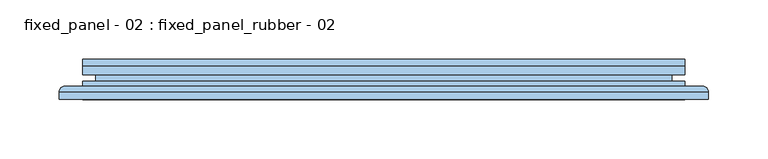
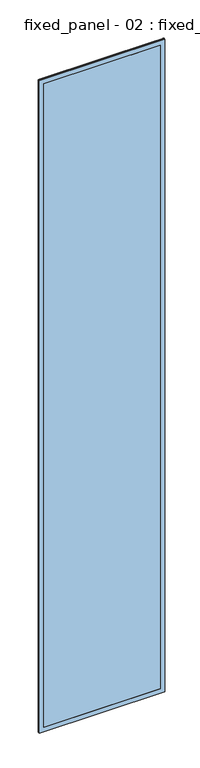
"""IFC4 building model written with IfcOpenShell, lengths in millimetres: window geometry, fixed_panel - 02 : fixed_panel_rubber - 02."""

from ifc_helpers import new_model, si_unit, frame, origin, place, context, project, spatial, polyline, ellipse_curve, outline, extrude, faceted_brep, source, transform, mapped, element, save
from ifc_brep_helpers import plane_surface, cylinder_surface, advanced_brep


def fixed_panel_02_fixed_panel_rubber_02_66d61222(model_context):
    return source(origin(), model_context, "Body", "SolidModel", [
        advanced_brep(
        [(255.001939, -27.9878211, 2960.0), (260.001939, -22.9878211, 2965.0), (260.001939, -22.9878211, -25.0), (255.001939, -27.9878211, -20.0), (269.999617, -22.9878211, -34.9976779), (-269.999617, -22.9878211, -34.9976779), (-269.999617, -22.9878211, 2974.9976779), (269.999617, -22.9878211, 2974.9976779), (-260.001939, -22.9878211, 2965.0), (-260.001939, -22.9878211, -25.0), (-255.001939, -27.9878211, -20.0), (255.001939, -34.0, 2960.0), (255.001939, -34.0, -20.0), (-255.001939, -34.0, -20.0), (274.9952925, -34.0, 2979.9933535), (-274.9952925, -34.0, 2979.9933535), (-274.9952925, -34.0, -39.9933535), (274.9952925, -34.0, -39.9933535), (-255.001939, -34.0, 2960.0), (274.9952925, -27.9834967, 2979.9933535), (274.9952925, -27.9834967, -39.9933535), (-274.9952925, -27.9834967, -39.9933535), (-255.001939, -27.9878211, 2960.0), (-274.9952925, -27.9834967, 2979.9933535)],
        [
            (0, 1, ellipse_curve(frame((260.001939, -27.9878211, 2965.0), z_axis=(0.7071067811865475, 0.0, -0.7071067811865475), x_axis=(0.7071067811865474, 0.0, 0.7071067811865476)), 7.0710678, 5.0)),
            (1, 2),
            (2, 3, ellipse_curve(frame((260.001939, -27.9878211, -25.0), z_axis=(0.7071067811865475, 0.0, 0.7071067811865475), x_axis=(-0.7071067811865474, 0.0, 0.7071067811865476)), 7.0710678, 5.0)),
            (3, 0),
            (4, 5),
            (5, 6),
            (6, 7),
            (7, 4),
            (1, 8),
            (8, 9),
            (9, 2),
            (9, 10, ellipse_curve(frame((-260.001939, -27.9878211, -25.0), z_axis=(0.7071067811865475, 0.0, -0.7071067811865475), x_axis=(0.7071067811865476, 0.0, 0.7071067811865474)), 7.0710678, 5.0)),
            (10, 3),
            (11, 0),
            (3, 12),
            (12, 11),
            (10, 13),
            (13, 12),
            (14, 15),
            (15, 16),
            (16, 17),
            (17, 14),
            (13, 18),
            (18, 11),
            (19, 14),
            (17, 20),
            (20, 19),
            (16, 21),
            (21, 20),
            (7, 19, ellipse_curve(frame((269.999617, -27.9834967, 2974.9976779), z_axis=(0.7071067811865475, 0.0, -0.7071067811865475), x_axis=(0.7071067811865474, 0.0, 0.7071067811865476)), 7.0649521, 4.9956756)),
            (20, 4, ellipse_curve(frame((269.999617, -27.9834967, -34.9976779), z_axis=(0.7071067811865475, 0.0, 0.7071067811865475), x_axis=(-0.7071067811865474, 0.0, 0.7071067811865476)), 7.0649521, 4.9956756)),
            (21, 5, ellipse_curve(frame((-269.999617, -27.9834967, -34.9976779), z_axis=(0.7071067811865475, 0.0, -0.7071067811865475), x_axis=(0.7071067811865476, 0.0, 0.7071067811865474)), 7.0649521, 4.9956756)),
            (8, 22, ellipse_curve(frame((-260.001939, -27.9878211, 2965.0), z_axis=(-0.7071067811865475, 0.0, -0.7071067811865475), x_axis=(0.7071067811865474, 0.0, -0.7071067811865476)), 7.0710678, 5.0)),
            (22, 10),
            (22, 18),
            (15, 23),
            (23, 21),
            (23, 6, ellipse_curve(frame((-269.999617, -27.9834967, 2974.9976779), z_axis=(-0.7071067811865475, 0.0, -0.7071067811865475), x_axis=(0.7071067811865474, 0.0, -0.7071067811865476)), 7.0649521, 4.9956756)),
            (0, 22),
            (19, 23),
        ],
        [
            cylinder_surface(frame((260.001939, -27.9878211, 2960.0), z_axis=(0.0, 0.0, 1.0), x_axis=(1.0, 0.0, 0.0)), 5.0),
            plane_surface(frame((-269.999617, -22.9878211, 2974.9976779), z_axis=(0.0, 1.0, 0.0), x_axis=(1.0, 0.0, 0.0))),
            cylinder_surface(frame((255.001939, -27.9878211, -25.0), z_axis=(1.0, 0.0, 0.0), x_axis=(0.0, 0.0, -1.0)), 5.0),
            plane_surface(frame((255.001939, -27.9878211, 2960.0), z_axis=(-1.0, 0.0, 0.0), x_axis=(0.0, 0.0, -1.0))),
            plane_surface(frame((255.001939, -27.9878211, -20.0), z_axis=(0.0, 0.0, 1.0), x_axis=(-1.0, 0.0, 0.0))),
            plane_surface(frame((-255.001939, -34.0, 2960.0), z_axis=(0.0, -1.0, 0.0), x_axis=(1.0, 0.0, 0.0))),
            plane_surface(frame((274.9952925, -34.0, 2979.9933535), z_axis=(1.0, 0.0, 0.0), x_axis=(0.0, 0.0, -1.0))),
            plane_surface(frame((274.9952925, -34.0, -39.9933535), z_axis=(0.0, 0.0, -1.0), x_axis=(-1.0, 0.0, 0.0))),
            cylinder_surface(frame((269.999617, -27.9834967, 2960.0), z_axis=(0.0, 0.0, 1.0), x_axis=(1.0, 0.0, 0.0)), 4.9956756),
            cylinder_surface(frame((255.001939, -27.9834967, -34.9976779), z_axis=(1.0, 0.0, 0.0), x_axis=(0.0, 0.0, -1.0)), 4.9956756),
            cylinder_surface(frame((-260.001939, -27.9878211, -20.0), z_axis=(0.0, 0.0, -1.0), x_axis=(-1.0, 0.0, 0.0)), 5.0),
            plane_surface(frame((-255.001939, -27.9878211, -20.0), z_axis=(1.0, 0.0, 0.0), x_axis=(0.0, 0.0, 1.0))),
            plane_surface(frame((-274.9952925, -34.0, -39.9933535), z_axis=(-1.0, 0.0, 0.0), x_axis=(0.0, 0.0, 1.0))),
            cylinder_surface(frame((-269.999617, -27.9834967, -20.0), z_axis=(0.0, 0.0, -1.0), x_axis=(-1.0, 0.0, 0.0)), 4.9956756),
            cylinder_surface(frame((-255.001939, -27.9878211, 2965.0), z_axis=(-1.0, 0.0, 0.0), x_axis=(0.0, 0.0, 1.0)), 5.0),
            plane_surface(frame((-255.001939, -27.9878211, 2960.0), z_axis=(0.0, 0.0, -1.0), x_axis=(1.0, 0.0, 0.0))),
            plane_surface(frame((-274.9952925, -34.0, 2979.9933535), z_axis=(0.0, 0.0, 1.0), x_axis=(1.0, 0.0, 0.0))),
            cylinder_surface(frame((-255.001939, -27.9834967, 2974.9976779), z_axis=(-1.0, 0.0, 0.0), x_axis=(0.0, 0.0, 1.0)), 4.9956756),
        ],
        [
            (0, [[1, 2, 3, 4]]),
            (1, [[5, 6, 7, 8], [9, 10, 11, -2]]),
            (2, [[-3, -11, 12, 13]]),
            (3, [[14, -4, 15, 16]]),
            (4, [[-15, -13, 17, 18]]),
            (5, [[19, 20, 21, 22], [-18, 23, 24, -16]]),
            (6, [[25, -22, 26, 27]]),
            (7, [[-26, -21, 28, 29]]),
            (8, [[30, -27, 31, -8]]),
            (9, [[-31, -29, 32, -5]]),
            (10, [[-12, -10, 33, 34]]),
            (11, [[-17, -34, 35, -23]]),
            (12, [[-28, -20, 36, 37]]),
            (13, [[-32, -37, 38, -6]]),
            (14, [[-33, -9, -1, 39]]),
            (15, [[-35, -39, -14, -24]]),
            (16, [[-36, -19, -25, 40]]),
            (17, [[-38, -40, -30, -7]]),
        ],
    ),
        faceted_brep([(229.001939, -26.0, 2934.0), (229.001939, -6.0, 2934.0), (229.001939, -6.0, 6.0), (229.001939, -26.0, 6.0), (255.001939, -6.0, -20.0), (-255.001939, -6.0, -20.0), (-255.001939, -6.0, 2960.0), (255.001939, -6.0, 2960.0), (-229.001939, -6.0, 2934.0), (-229.001939, -6.0, 6.0), (-229.001939, -26.0, 6.0), (255.001939, -26.0, 2960.0), (-255.001939, -26.0, 2960.0), (-255.001939, -26.0, -20.0), (255.001939, -26.0, -20.0), (-229.001939, -26.0, 2934.0), (255.001939, -18.8, 2960.0), (255.001939, -18.8, -20.0), (-255.001939, -18.8, -20.0), (-255.001939, -18.8, 2960.0), (244.001939, -18.8, 2949.0), (-244.001939, -18.8, 2949.0), (-244.001939, -18.8, -9.0), (244.001939, -18.8, -9.0), (244.001939, -13.2, 2949.0), (244.001939, -13.2, -9.0), (-244.001939, -13.2, -9.0), (255.001939, -13.2, 2960.0), (-255.001939, -13.2, 2960.0), (-255.001939, -13.2, -20.0), (255.001939, -13.2, -20.0), (-244.001939, -13.2, 2949.0)], [[[0, 1, 2, 3]], [[4, 5, 6, 7], [1, 8, 9, 2]], [[3, 2, 9, 10]], [[11, 12, 13, 14], [3, 10, 15, 0]], [[16, 11, 14, 17]], [[17, 14, 13, 18]], [[17, 18, 19, 16], [20, 21, 22, 23]], [[24, 20, 23, 25]], [[25, 23, 22, 26]], [[27, 28, 29, 30], [25, 26, 31, 24]], [[7, 27, 30, 4]], [[4, 30, 29, 5]], [[10, 9, 8, 15]], [[18, 13, 12, 19]], [[26, 22, 21, 31]], [[5, 29, 28, 6]], [[15, 8, 1, 0]], [[19, 12, 11, 16]], [[31, 21, 20, 24]], [[6, 28, 27, 7]]]),
        extrude(outline(polyline([(255.001939, -34.0), (-255.001939, -34.0), (-255.001939, -26.0), (255.001939, -26.0), (255.001939, -34.0)])), frame((0.0, 0.0, -20.0), z_axis=(0.0, 0.0, 1.0), x_axis=(1.0, 0.0, 0.0)), (0.0, 0.0, 1.0), 2980.0),
        extrude(outline(polyline([(255.001939, -6.0), (-255.001939, -6.0), (-255.001939, 0.0), (255.001939, 0.0), (255.001939, -6.0)])), frame((0.0, 0.0, -20.0), z_axis=(0.0, 0.0, 1.0), x_axis=(1.0, 0.0, 0.0)), (0.0, 0.0, 1.0), 2980.0),
    ])


if __name__ == "__main__":
    model = new_model("IFC4")
    model_context = context("Model", 3, world=origin())
    ifc_project = project(units=[si_unit("LENGTHUNIT", "METRE", prefix="MILLI")], contexts=[model_context])
    site = spatial("IfcSite", under=ifc_project)
    building = spatial("IfcBuilding", under=site)
    placement = place(None, origin())
    fixed_panel_02_fixed_panel_rubber_02_shape = fixed_panel_02_fixed_panel_rubber_02_66d61222(model_context)
    element("IfcWindow", 1, ObjectType="fixed_panel - 02 : fixed_panel_rubber - 02", at=placement, inside=building, context=model_context, shape_type="MappedRepresentation", body=[
        mapped(fixed_panel_02_fixed_panel_rubber_02_shape, transform((0.0, 0.0, 0.0), x_axis=(1.0, 0.0, 0.0), y_axis=(0.0, 1.0, 0.0), z_axis=(0.0, 0.0, 1.0))),
    ])
    save(model, "model.ifc")
